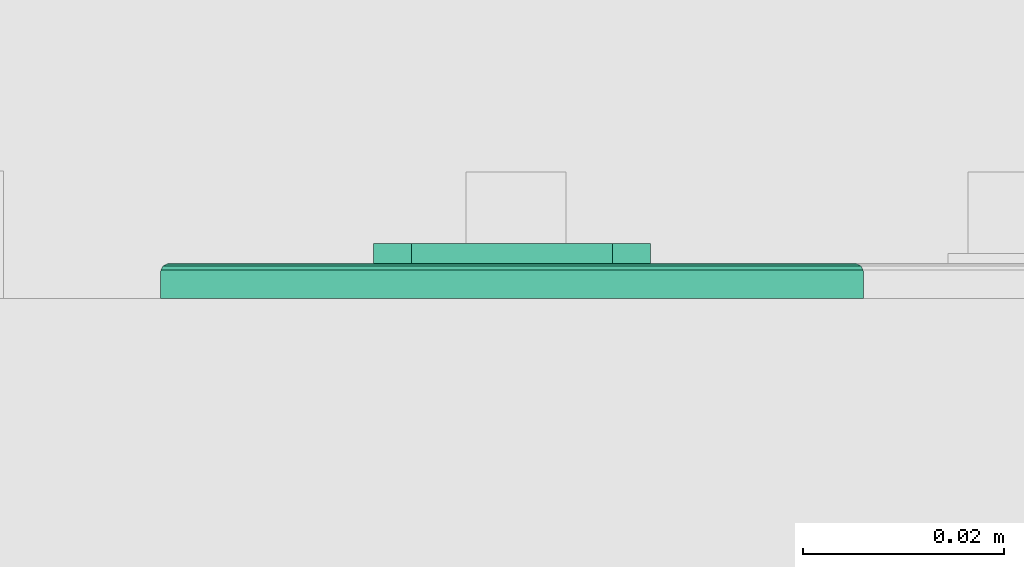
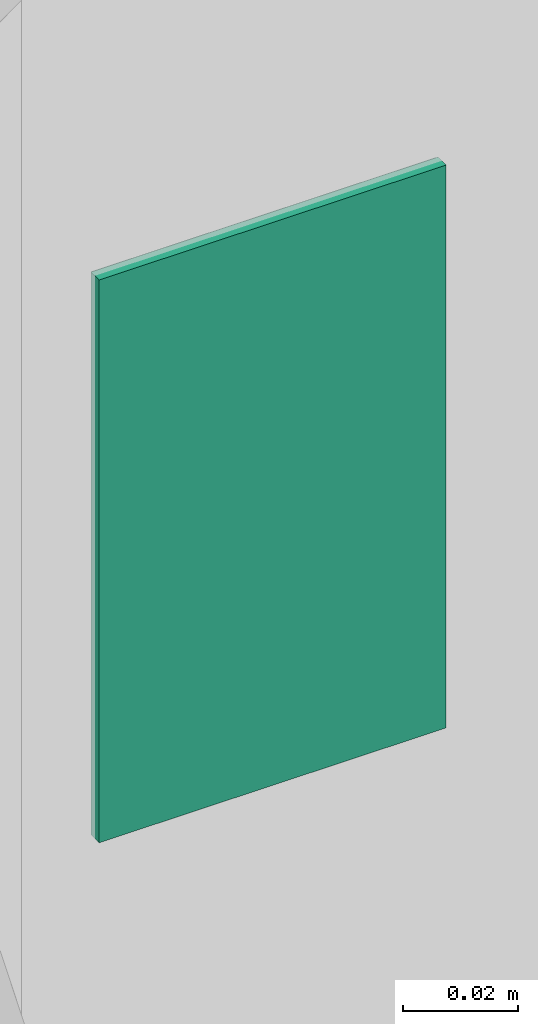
# One storey, part 42 of 103: 1 flow controller.
"""IFC2X3 building model written with IfcOpenShell, lengths in inches."""

from ifc_helpers import new_model, entity, si_unit, converted_unit, derived_unit, money_unit, direction, frame, origin_with_axes, place, context, subcontext, project, spatial, faceted_brep, type_object, element, save


model = new_model("IFC2X3")

# Units and contexts
model_context = context("Model", 3, precision=0.00039370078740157, world=origin_with_axes(), true_north=direction((0.0, 1.0)))
plan_context = context("Plan", 3, precision=0.00039370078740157, world=origin_with_axes(), true_north=direction((0.0, 1.0)))
body_context = subcontext(model_context, "Body", "Model", "MODEL_VIEW")
ifc_project = project(units=[converted_unit("LENGTHUNIT", "INCH", entity("IfcPositiveLengthMeasure", 0.0254), si_unit("LENGTHUNIT", "METRE"), dimensions=[1, 0, 0, 0, 0, 0, 0]), converted_unit("AREAUNIT", "SQUARE_FOOT", entity("IfcPositiveLengthMeasure", 0.09290304), si_unit("AREAUNIT", "SQUARE_METRE"), dimensions=[2, 0, 0, 0, 0, 0, 0]), si_unit("PLANEANGLEUNIT", "RADIAN"), si_unit("SOLIDANGLEUNIT", "STERADIAN"), money_unit("USD"), converted_unit("TIMEUNIT", "Year", entity("IfcTimeMeasure", 31557600.0), si_unit("TIMEUNIT", "SECOND"), dimensions=[0, 0, 1, 0, 0, 0, 0]), si_unit("MASSUNIT", "GRAM", prefix="KILO"), si_unit("THERMODYNAMICTEMPERATUREUNIT", "DEGREE_CELSIUS"), si_unit("LUMINOUSINTENSITYUNIT", "LUMEN"), si_unit("ENERGYUNIT", "JOULE", prefix="MEGA"), derived_unit("SPECIFICHEATCAPACITYUNIT", [(si_unit("ENERGYUNIT", "JOULE"), 1), (si_unit("MASSUNIT", "GRAM", prefix="KILO"), -1), (si_unit("THERMODYNAMICTEMPERATUREUNIT", "KELVIN"), -1)])], contexts=[model_context, plan_context])

# Site, building, storey
site_placement = place(None, origin_with_axes())
site = spatial("IfcSite", under=ifc_project, at=site_placement, Name="Site", CompositionType="ELEMENT")
building_placement = place(site_placement, origin_with_axes())
building = spatial("IfcBuilding", under=site, at=building_placement, Name="Building", CompositionType="ELEMENT")
storey_placement = place(building_placement, frame((0.0, 0.0, 127.9999999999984), z_axis=(0.0, 0.0, 1.0), x_axis=(1.0, 0.0, 0.0)))
storey = spatial("IfcBuildingStorey", under=building, at=storey_placement, Name="Second Floor", CompositionType="ELEMENT", Elevation=128.0)

# Flow controller
switching_device_type = type_object("IfcSwitchingDeviceType", Name="Outlet 1 US", PredefinedType="NOTDEFINED")
flow_controller_placement = place(storey_placement, frame((-212.7553200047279, 378.9999994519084, 11.4980314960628), z_axis=(0.0, 0.0, 1.0), x_axis=(-1.0, 0.0, 0.0)))
element("IfcFlowController", 1, at=flow_controller_placement, inside=storey, type_object=switching_device_type, Name="FU - 029", context=body_context, shape_type="Brep", body=[
    faceted_brep([(0.39370078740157, -0.03444881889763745, -1.18110236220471), (0.5436477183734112, -0.03444881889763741, -0.708661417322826), (0.5436477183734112, -0.2165354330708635, -0.708661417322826), (0.39370078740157, -0.2165354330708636, -1.18110236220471), (-0.3937007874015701, -0.03444881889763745, -1.18110236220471), (-0.543647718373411, -0.03444881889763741, -0.708661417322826), (-0.39370078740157, -0.03444881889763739, -0.2362204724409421), (0.3937007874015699, -0.03444881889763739, -0.2362204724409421), (-0.196850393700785, -0.03444881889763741, -0.7086614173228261), (-0.196850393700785, -0.0344488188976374, -0.472440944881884), (-0.275590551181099, -0.0344488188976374, -0.472440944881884), (-0.275590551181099, -0.03444881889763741, -0.7086614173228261), (0.196850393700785, -0.03444881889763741, -0.7086614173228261), (0.275590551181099, -0.03444881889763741, -0.7086614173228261), (0.275590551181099, -0.0344488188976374, -0.472440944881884), (0.196850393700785, -0.0344488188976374, -0.472440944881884), (-0.078740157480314, -0.03444881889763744, -1.102362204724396), (0.078740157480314, -0.03444881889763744, -1.102362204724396), (0.078740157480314, -0.03444881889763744, -1.023622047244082), (0.06819097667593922, -0.03444881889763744, -0.984251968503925), (0.03937007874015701, -0.03444881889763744, -0.9554310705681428), (0.0, -0.03444881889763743, -0.944881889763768), (-0.03937007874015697, -0.03444881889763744, -0.9554310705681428), (-0.06819097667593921, -0.03444881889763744, -0.984251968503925), (-0.078740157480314, -0.03444881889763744, -1.023622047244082), (0.3937007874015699, -0.2165354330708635, -0.2362204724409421), (-0.39370078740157, -0.2165354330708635, -0.2362204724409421), (-0.543647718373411, -0.2165354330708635, -0.708661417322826), (-0.3937007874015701, -0.2165354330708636, -1.18110236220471), (-0.196850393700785, -0.2165354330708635, -0.7086614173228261), (-0.275590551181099, -0.2165354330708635, -0.7086614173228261), (-0.275590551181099, -0.2165354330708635, -0.472440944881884), (-0.196850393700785, -0.2165354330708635, -0.472440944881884), (0.196850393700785, -0.2165354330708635, -0.7086614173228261), (0.196850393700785, -0.2165354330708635, -0.472440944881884), (0.275590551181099, -0.2165354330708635, -0.472440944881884), (0.275590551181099, -0.2165354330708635, -0.7086614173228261), (-0.078740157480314, -0.2165354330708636, -1.102362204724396), (-0.078740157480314, -0.2165354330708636, -1.023622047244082), (-0.06819097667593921, -0.2165354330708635, -0.984251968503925), (-0.03937007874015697, -0.2165354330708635, -0.9554310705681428), (0.0, -0.2165354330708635, -0.944881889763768), (0.03937007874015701, -0.2165354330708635, -0.9554310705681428), (0.06819097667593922, -0.2165354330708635, -0.984251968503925), (0.078740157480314, -0.2165354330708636, -1.023622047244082), (0.078740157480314, -0.2165354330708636, -1.102362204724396)], [[[0, 1, 2, 3]], [[0, 4, 5, 6, 7, 1], [8, 9, 10, 11], [12, 13, 14, 15], [16, 17, 18, 19, 20, 21, 22, 23, 24]], [[1, 7, 25, 2]], [[3, 2, 25, 26, 27, 28], [29, 30, 31, 32], [33, 34, 35, 36], [37, 38, 39, 40, 41, 42, 43, 44, 45]], [[4, 0, 3, 28]], [[5, 4, 28, 27]], [[6, 5, 27, 26]], [[7, 6, 26, 25]], [[9, 8, 29, 32]], [[10, 9, 32, 31]], [[11, 10, 31, 30]], [[8, 11, 30, 29]], [[13, 12, 33, 36]], [[14, 13, 36, 35]], [[15, 14, 35, 34]], [[12, 15, 34, 33]], [[17, 16, 37, 45]], [[18, 17, 45, 44]], [[19, 18, 44, 43]], [[20, 19, 43, 42]], [[21, 20, 42, 41]], [[22, 21, 41, 40]], [[23, 22, 40, 39]], [[24, 23, 39, 38]], [[16, 24, 38, 37]]]),
    faceted_brep([(0.39370078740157, -0.03444881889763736, 0.2362204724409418), (0.5436477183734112, -0.03444881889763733, 0.708661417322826), (0.5436477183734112, -0.2165354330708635, 0.708661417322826), (0.39370078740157, -0.2165354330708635, 0.2362204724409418), (-0.3937007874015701, -0.03444881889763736, 0.2362204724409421), (-0.543647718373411, -0.03444881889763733, 0.708661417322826), (-0.39370078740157, -0.0344488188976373, 1.18110236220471), (0.3937007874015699, -0.0344488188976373, 1.18110236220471), (-0.196850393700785, -0.03444881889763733, 0.7086614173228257), (-0.196850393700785, -0.03444881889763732, 0.9448818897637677), (-0.275590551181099, -0.03444881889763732, 0.9448818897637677), (-0.275590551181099, -0.03444881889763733, 0.7086614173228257), (0.196850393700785, -0.03444881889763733, 0.7086614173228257), (0.275590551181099, -0.03444881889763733, 0.7086614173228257), (0.275590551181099, -0.03444881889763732, 0.9448818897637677), (0.196850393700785, -0.03444881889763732, 0.9448818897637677), (-0.078740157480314, -0.03444881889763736, 0.3149606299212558), (0.078740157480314, -0.03444881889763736, 0.3149606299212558), (0.078740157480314, -0.03444881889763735, 0.3937007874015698), (0.06819097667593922, -0.03444881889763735, 0.4330708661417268), (0.03937007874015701, -0.03444881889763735, 0.461891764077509), (0.0, -0.03444881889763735, 0.4724409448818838), (-0.03937007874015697, -0.03444881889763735, 0.461891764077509), (-0.06819097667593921, -0.03444881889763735, 0.4330708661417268), (-0.078740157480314, -0.03444881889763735, 0.3937007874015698), (0.3937007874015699, -0.2165354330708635, 1.18110236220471), (-0.39370078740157, -0.2165354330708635, 1.18110236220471), (-0.543647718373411, -0.2165354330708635, 0.708661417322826), (-0.3937007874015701, -0.2165354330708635, 0.2362204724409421), (-0.196850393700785, -0.2165354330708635, 0.7086614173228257), (-0.275590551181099, -0.2165354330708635, 0.7086614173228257), (-0.275590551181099, -0.2165354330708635, 0.9448818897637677), (-0.196850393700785, -0.2165354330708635, 0.9448818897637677), (0.196850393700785, -0.2165354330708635, 0.7086614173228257), (0.196850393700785, -0.2165354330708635, 0.9448818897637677), (0.275590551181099, -0.2165354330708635, 0.9448818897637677), (0.275590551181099, -0.2165354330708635, 0.7086614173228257), (-0.078740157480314, -0.2165354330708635, 0.3149606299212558), (-0.078740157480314, -0.2165354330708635, 0.3937007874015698), (-0.06819097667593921, -0.2165354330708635, 0.4330708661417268), (-0.03937007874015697, -0.2165354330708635, 0.461891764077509), (0.0, -0.2165354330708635, 0.4724409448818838), (0.03937007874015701, -0.2165354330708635, 0.461891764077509), (0.06819097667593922, -0.2165354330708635, 0.4330708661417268), (0.078740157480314, -0.2165354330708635, 0.3937007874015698), (0.078740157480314, -0.2165354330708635, 0.3149606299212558)], [[[0, 1, 2, 3]], [[0, 4, 5, 6, 7, 1], [8, 9, 10, 11], [12, 13, 14, 15], [16, 17, 18, 19, 20, 21, 22, 23, 24]], [[1, 7, 25, 2]], [[3, 2, 25, 26, 27, 28], [29, 30, 31, 32], [33, 34, 35, 36], [37, 38, 39, 40, 41, 42, 43, 44, 45]], [[4, 0, 3, 28]], [[5, 4, 28, 27]], [[6, 5, 27, 26]], [[7, 6, 26, 25]], [[9, 8, 29, 32]], [[10, 9, 32, 31]], [[11, 10, 31, 30]], [[8, 11, 30, 29]], [[13, 12, 33, 36]], [[14, 13, 36, 35]], [[15, 14, 35, 34]], [[12, 15, 34, 33]], [[17, 16, 37, 45]], [[18, 17, 45, 44]], [[19, 18, 44, 43]], [[20, 19, 43, 42]], [[21, 20, 42, 41]], [[22, 21, 41, 40]], [[23, 22, 40, 39]], [[24, 23, 39, 38]], [[16, 24, 38, 37]]]),
    faceted_brep([(-1.343503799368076, -0.1377952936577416, -2.327755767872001), (1.343503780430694, -0.1377952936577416, -2.327755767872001), (1.343503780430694, -0.1377952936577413, 2.32775574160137), (-1.343503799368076, -0.1377952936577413, 2.32775574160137), (0.39370078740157, -0.1377952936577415, -1.18110236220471), (-0.3937007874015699, -0.1377952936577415, -1.18110236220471), (-0.5436477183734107, -0.1377952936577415, -0.708661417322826), (-0.39370078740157, -0.1377952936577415, -0.2362204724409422), (0.3937007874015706, -0.1377952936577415, -0.2362204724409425), (0.5436477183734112, -0.1377952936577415, -0.7086614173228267), (-0.39370078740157, -0.1377952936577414, 1.18110236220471), (0.3937007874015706, -0.1377952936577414, 1.181102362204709), (0.5436477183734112, -0.1377952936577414, 0.7086614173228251), (0.39370078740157, -0.1377952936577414, 0.2362204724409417), (-0.3937007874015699, -0.1377952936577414, 0.2362204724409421), (-0.5436477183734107, -0.1377952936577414, 0.708661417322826), (-1.352419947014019, -0.1366214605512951, -2.336671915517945), (1.352419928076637, -0.1366214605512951, -2.336671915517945), (1.352419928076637, -0.1366214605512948, 2.336671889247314), (-1.352419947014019, -0.1366214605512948, 2.336671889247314), (0.39370078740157, -0.03444881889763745, -1.18110236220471), (-0.3937007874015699, -0.03444881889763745, -1.18110236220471), (-0.5436477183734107, -0.03444881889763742, -0.708661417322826), (-0.39370078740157, -0.03444881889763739, -0.2362204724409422), (0.3937007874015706, -0.03444881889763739, -0.2362204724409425), (0.5436477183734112, -0.03444881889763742, -0.7086614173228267), (-0.39370078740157, -0.0344488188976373, 1.18110236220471), (0.3937007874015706, -0.0344488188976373, 1.181102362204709), (0.5436477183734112, -0.03444881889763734, 0.7086614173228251), (0.39370078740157, -0.03444881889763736, 0.2362204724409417), (-0.3937007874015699, -0.03444881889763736, 0.2362204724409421), (-0.5436477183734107, -0.03444881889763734, 0.708661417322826), (-1.36786294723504, -0.1277054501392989, -2.352114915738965), (1.367862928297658, -0.1277054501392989, -2.352114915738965), (1.367862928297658, -0.1277054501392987, 2.352114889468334), (-1.36786294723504, -0.1277054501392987, 2.352114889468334), (-1.376778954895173, -0.1122624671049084, -2.361030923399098), (1.376778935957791, -0.1122624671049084, -2.361030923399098), (1.376778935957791, -0.1122624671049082, 2.361030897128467), (-1.376778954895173, -0.1122624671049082, 2.361030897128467), (-1.377952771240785, -0.1033464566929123, -2.36220473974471), (1.377952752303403, -0.1033464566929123, -2.36220473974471), (1.377952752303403, -0.103346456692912, 2.362204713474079), (-1.377952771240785, -0.103346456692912, 2.362204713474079), (-1.377952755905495, 0.0, -2.36220472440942), (1.377952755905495, 0.0, -2.36220472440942), (1.377952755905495, 0.0, 2.36220472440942), (-1.377952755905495, 0.0, 2.36220472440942)], [[[0, 1, 2, 3], [4, 5, 6, 7, 8, 9], [10, 11, 12, 13, 14, 15]], [[1, 0, 16, 17]], [[2, 1, 17, 18]], [[3, 2, 18, 19]], [[0, 3, 19, 16]], [[4, 20, 21, 5]], [[5, 21, 22, 6]], [[6, 22, 23, 7]], [[7, 23, 24, 8]], [[8, 24, 25, 9]], [[9, 25, 20, 4]], [[11, 10, 26, 27]], [[12, 11, 27, 28]], [[13, 12, 28, 29]], [[14, 13, 29, 30]], [[15, 14, 30, 31]], [[10, 15, 31, 26]], [[17, 16, 32, 33]], [[18, 17, 33, 34]], [[19, 18, 34, 35]], [[16, 19, 35, 32]], [[22, 21, 20, 25, 24, 23]], [[28, 27, 26, 31, 30, 29]], [[33, 32, 36, 37]], [[34, 33, 37, 38]], [[35, 34, 38, 39]], [[32, 35, 39, 36]], [[37, 36, 40, 41]], [[38, 37, 41, 42]], [[39, 38, 42, 43]], [[36, 39, 43, 40]], [[41, 40, 44, 45]], [[42, 41, 45, 46]], [[43, 42, 46, 47]], [[40, 43, 47, 44]], [[46, 45, 44, 47]]]),
])

save(model, "model.ifc")
